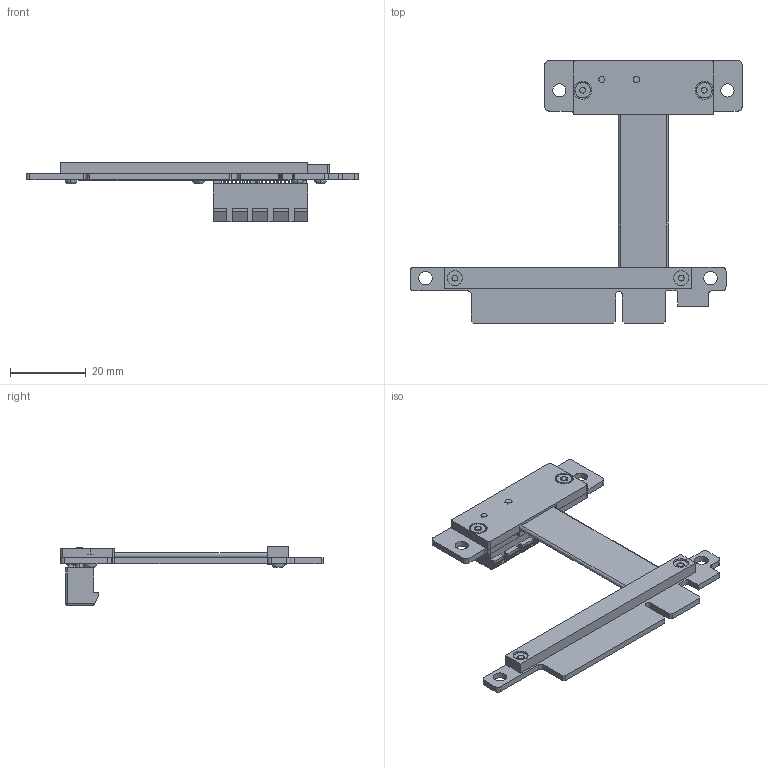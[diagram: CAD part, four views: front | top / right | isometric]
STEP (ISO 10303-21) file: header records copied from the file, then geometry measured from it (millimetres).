
FILE_DESCRIPTION(('Open CASCADE Model'),'2;1');
FILE_NAME('Open CASCADE Shape Model','2020-03-21T03:13:57',('Author'),( 'Open CASCADE'),'Open CASCADE STEP processor 6.8','Open CASCADE 6.8' ,'Unknown');
FILE_SCHEMA(('AUTOMOTIVE_DESIGN { 1 0 10303 214 1 1 1 1 }'));
Length unit declared in the file: millimetre
Products named in the file (15): PCB; Board; Open CASCADE STEP translator 6.8 26.1.1; Free-Models; G0033_RGB9411503; Hexagon_nut_ISO_4032_(DIN_934)_-_M2_RGB9411503; RP11R-PAD; TE_PCIe_Express_x1_(2.3mm_Pins)_RGB4404530; PCIe_Body_PCIe_x1; Pins_Internal_Pin_(Short); Pins_External_Pin_(Short); Tape14x5_RGB0; Tape28x5_RGB0; R8S-PAD-20170526; cable20-43
Assembly tree (55 placements, depth 4):
  PCB
    Board
      Open CASCADE STEP translator 6.8 26.1.1
    Free-Models
      G0033_RGB9411503  x4
      Hexagon_nut_ISO_4032_(DIN_934)_-_M2_RGB9411503  x4
      RP11R-PAD
      TE_PCIe_Express_x1_(2.3mm_Pins)_RGB4404530
        PCIe_Body_PCIe_x1
        Pins_Internal_Pin_(Short)  x18
        Pins_External_Pin_(Short)  x18
      Tape14x5_RGB0
      Tape28x5_RGB0  x2
      R8S-PAD-20170526
      cable20-43
Bounding box: 87.85 x 69.47 x 15.7 mm (x, y, z)
Volume: 6488.9 mm3; surface area: 14433.2 mm2
Topology: 92 solids, 92 shells, 2270 faces, 6106 edges, 4005 vertices
Faces by surface type: plane 1227, cylinder 901, torus 80, cone 52, revolution 8, sphere 2
Full cylindrical faces by diameter (mm): 0.6 x100, 0.7 x36, 1.2 x4, 1.6 x35, 2 x4, 2.2 x8, 2.35 x2, 2.4 x2, 3.5 x2, 3.6 x2, 4 x2, 4.8 x2
Entity records: 43040 total; most frequent: CARTESIAN_POINT 7009, DIRECTION 6935, ORIENTED_EDGE 6640, EDGE_CURVE 3320, AXIS2_PLACEMENT_3D 2405, VERTEX_POINT 2161, LINE 2123, VECTOR 2123
